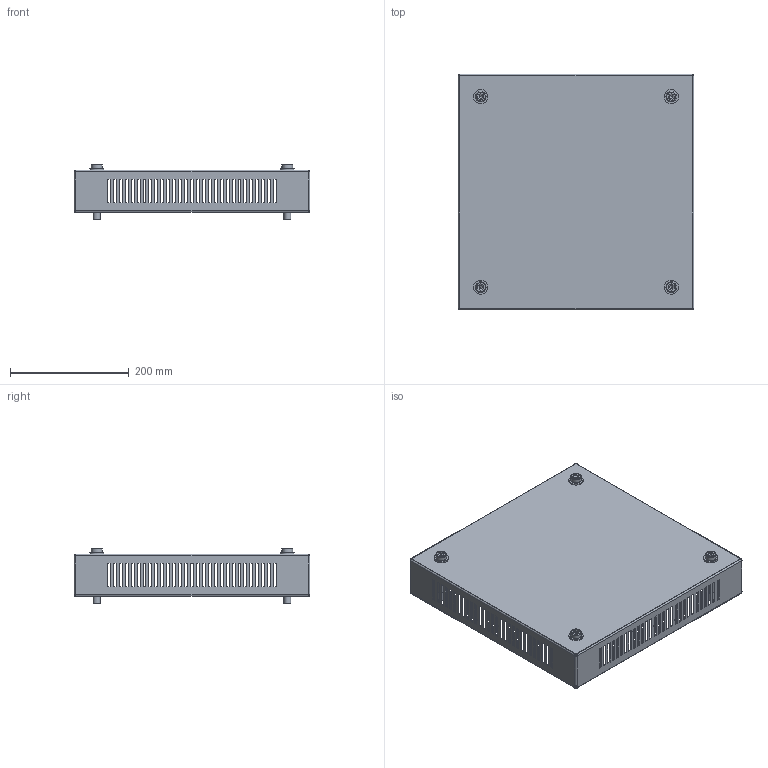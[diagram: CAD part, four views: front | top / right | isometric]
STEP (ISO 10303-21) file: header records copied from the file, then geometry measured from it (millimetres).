
FILE_DESCRIPTION(('STEP AP203'), '1');
FILE_NAME('3320 ÑÁ Ïîòîëî÷íàÿ ïàíåëü', '', ('UNSPECIFIED'), ('UNSPECIFIED'), 'C3D Converter', 'C3D Toolkit', '');
FILE_SCHEMA(('CONFIG_CONTROL_DESIGN'));
Length unit declared in the file: millimetre
Products named in the file (5): 3320.40.40 СБ; 3321; 2329
Assembly tree (13 placements, depth 2):
  3320.40.40 СБ
    3321
    2329  x4
    (unnamed)  x4
    (unnamed)  x4
Bounding box: 397 x 397 x 93.5 mm (x, y, z)
Volume: 477619.6 mm3; surface area: 556107.6 mm2
Topology: 13 solids, 13 shells, 660 faces, 1868 edges, 1240 vertices
Faces by surface type: plane 560, cylinder 56, cone 20, sphere 16, torus 8
Full cylindrical faces by diameter (mm): 6 x4, 10.106 x4, 12 x8, 13.5 x4, 16 x4, 18 x4, 24 x4
Entity records: 20281 total; most frequent: CARTESIAN_POINT 4732, ORIENTED_EDGE 3124, DIRECTION 2798, EDGE_CURVE 1562, LINE 1482, VECTOR 1482, VERTEX_POINT 1034, EDGE_LOOP 822
